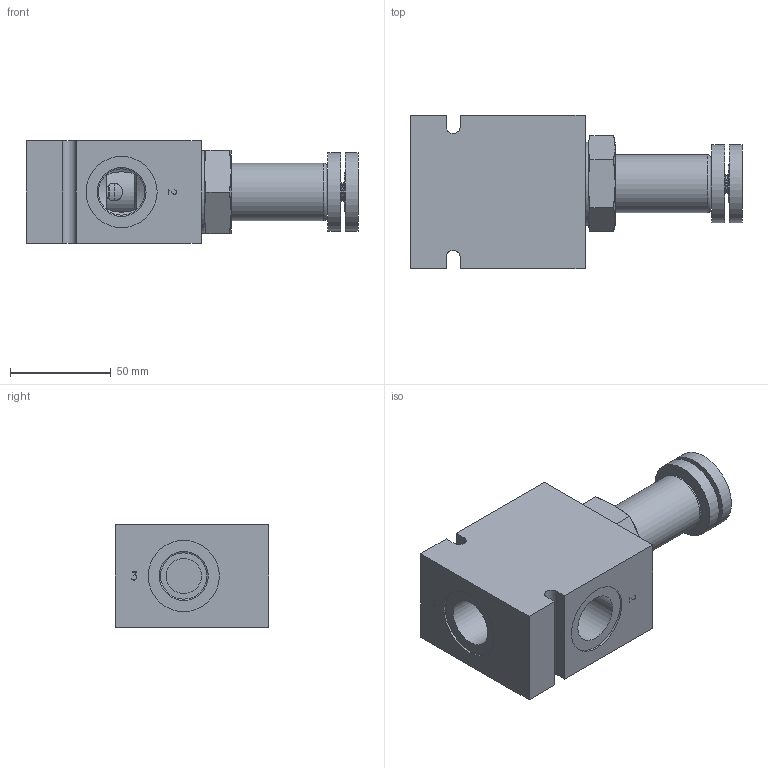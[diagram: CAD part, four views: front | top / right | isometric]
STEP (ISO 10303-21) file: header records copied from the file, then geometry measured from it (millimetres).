
FILE_DESCRIPTION( ( 'Unknown' ), '1' );
FILE_NAME( 'G:/Graphic Design/Graphic Design 2/Data Sheets/PRESSURE CONTROLS/2_STEP/Pressure Compensated Regulator Valves/D-SLPCE0K-D3.stp', 'Unknown', ( 'Unknown' ), ( 'Unknown' ), 'PSStep 16.0.42', 'Unknown', ' ' );
FILE_SCHEMA( ( 'AUTOMOTIVE_DESIGN { 1 0 10303 214 1 1 1 1 }' ) );
Length unit declared in the file: millimetre
Products named in the file (12): SLPCE0K-3D Full; Part190; Part192; Part194; Part196; Part198; Part200; Part202; Part204; Part206; Assem1; B-DSLD3
Assembly tree (11 placements, depth 3):
  Assem1
    B-DSLD3
    SLPCE0K-3D Full
      Part190
      Part192
      Part194
      Part196
      Part198
      Part200
      Part202
      Part204
      Part206
Bounding box: 164.99 x 76.2 x 50.8 mm (x, y, z)
Surface area: 69246.7 mm2 (no closed solid volume)
Topology: 0 solids, 282 shells, 282 faces, 1157 edges, 1043 vertices
Faces by surface type: plane 140, cone 78, cylinder 59, torus 5
Full cylindrical faces by diameter (mm): 0.762 x1, 3.962 x1, 6.3 x1, 8.128 x1, 8.738 x4, 9.525 x2, 11.5 x2, 16.459 x2, 17.462 x2, 17.479 x1, 19.05 x2, 20.93 x2, 22.22 x1, 23 x2, 24.105 x4, 24.13 x1, 24.3 x4, 25.248 x1, 25.349 x2, 25.4 x1, 27.051 x1, 28.423 x2, 28.524 x2, 28.6 x2, 28.651 x1, 28.702 x1, 29.21 x1, 30.328 x1, 31.806 x2, 35.33 x2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
Entity records: 14476 total; most frequent: CARTESIAN_POINT 4184, DIRECTION 1554, VERTEX_POINT 1013, ORIENTED_EDGE 1010, EDGE_CURVE 1010, AXIS2_PLACEMENT_3D 653, FACE_BOUND 441, EDGE_LOOP 438
